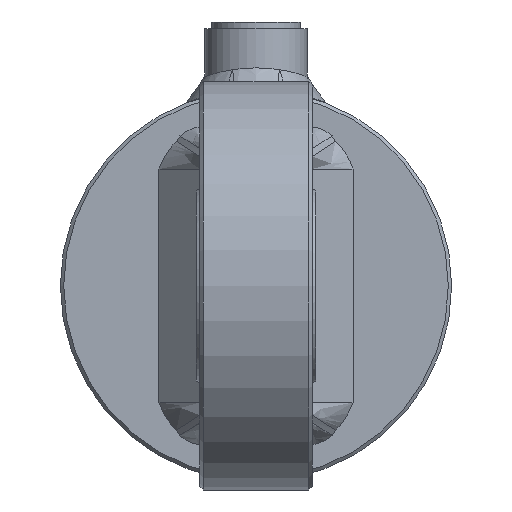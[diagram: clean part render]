
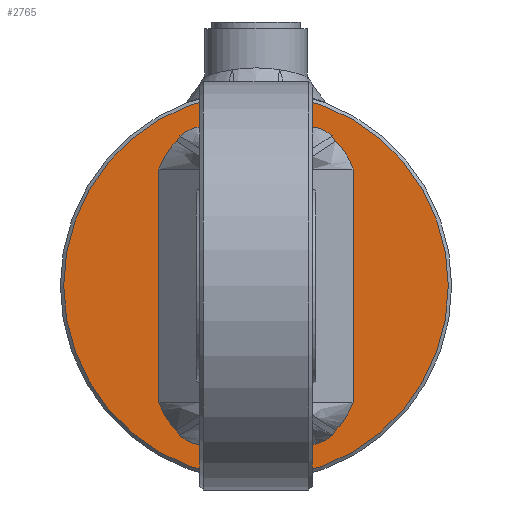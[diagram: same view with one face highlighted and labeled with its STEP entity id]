
A CAD part, left-side view. The second image highlights one B-rep face of the part: STEP entity #2765.
In plain terms, the highlighted planar face has unit normal (-1, 0, 0).
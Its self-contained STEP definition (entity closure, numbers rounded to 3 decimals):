
#2765 = ADVANCED_FACE( '', ( #9124 ), #9125, .T. );
#9124 = FACE_OUTER_BOUND( '', #11018, .T. );
#9125 = PLANE( '', #11019 );
#11018 = EDGE_LOOP( '', ( #11959 ) );
#11019 = AXIS2_PLACEMENT_3D( '', #11960, #11961, #11962 );
#11959 = ORIENTED_EDGE( '', *, *, #13239, .T. );
#11960 = CARTESIAN_POINT( '', ( -15., 0., 0. ) );
#11961 = DIRECTION( '', ( -1., 0., 0. ) );
#11962 = DIRECTION( '', ( 0., -1., 0. ) );
#13239 = EDGE_CURVE( '', #16852, #16852, #16853, .T. );
#16852 = VERTEX_POINT( '', #17625 );
#16853 = CIRCLE( '', #17626, 56.5 );
#17625 = CARTESIAN_POINT( '', ( -15., -56.5, 0. ) );
#17626 = AXIS2_PLACEMENT_3D( '', #17773, #17774, #17775 );
#17773 = CARTESIAN_POINT( '', ( -15., 0., 0. ) );
#17774 = DIRECTION( '', ( -1., 0., 0. ) );
#17775 = DIRECTION( '', ( 0., -1., 0. ) );
